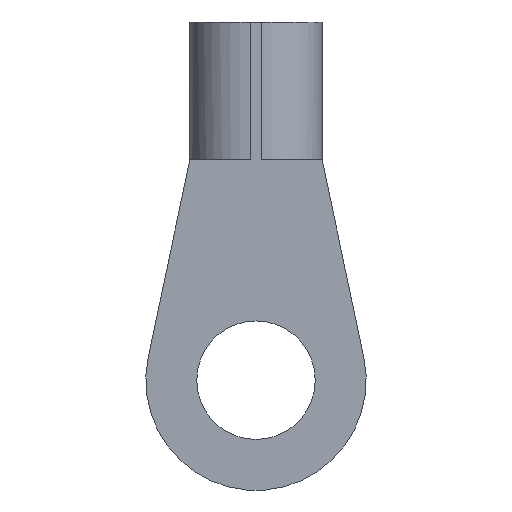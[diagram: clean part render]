
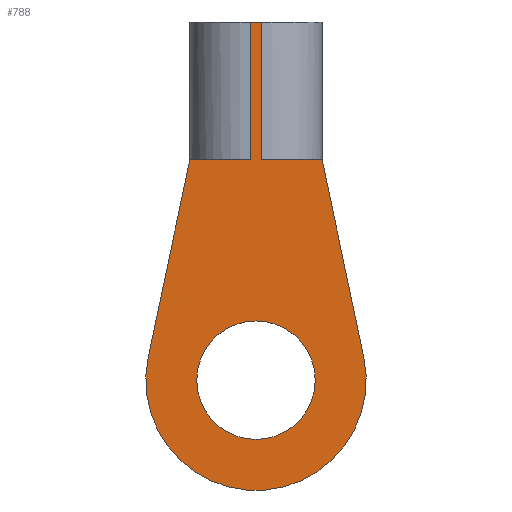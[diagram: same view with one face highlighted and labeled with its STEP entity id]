
A CAD part, front view. The second image highlights one B-rep face of the part: STEP entity #788.
In plain terms, the highlighted planar face has unit normal (0, -1, 0).
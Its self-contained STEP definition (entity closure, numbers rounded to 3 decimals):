
#12 = CARTESIAN_POINT ( 'NONE',  ( 0.2, -1., -5. ) ) ;
#22 = CARTESIAN_POINT ( 'NONE',  ( 0., -1., -10.85 ) ) ;
#24 = VERTEX_POINT ( 'NONE', #632 ) ;
#30 = VERTEX_POINT ( 'NONE', #621 ) ;
#32 = VERTEX_POINT ( 'NONE', #625 ) ;
#36 = VERTEX_POINT ( 'NONE', #627 ) ;
#47 = VERTEX_POINT ( 'NONE', #22 ) ;
#61 = LINE ( 'NONE', #464, #75 ) ;
#72 = CIRCLE ( 'NONE', #564, 4. ) ;
#75 = VECTOR ( 'NONE', #296, 1000. ) ;
#76 = LINE ( 'NONE', #620, #79 ) ;
#78 = LINE ( 'NONE', #295, #83 ) ;
#79 = VECTOR ( 'NONE', #617, 1000. ) ;
#83 = VECTOR ( 'NONE', #433, 1000. ) ;
#88 = LINE ( 'NONE', #448, #92 ) ;
#92 = VECTOR ( 'NONE', #454, 1000. ) ;
#104 = LINE ( 'NONE', #470, #107 ) ;
#107 = VECTOR ( 'NONE', #711, 1000. ) ;
#134 = FACE_OUTER_BOUND ( 'NONE', #534, .T. ) ;
#136 = FACE_BOUND ( 'NONE', #679, .T. ) ;
#182 = CIRCLE ( 'NONE', #399, 2.15 ) ;
#230 = LINE ( 'NONE', #1090, #234 ) ;
#234 = VECTOR ( 'NONE', #1086, 1000. ) ;
#281 = CIRCLE ( 'NONE', #387, 2.15 ) ;
#286 = LINE ( 'NONE', #889, #287 ) ;
#287 = VECTOR ( 'NONE', #890, 1000. ) ;
#295 = CARTESIAN_POINT ( 'NONE',  ( -2.4, -1., -5. ) ) ;
#296 = DIRECTION ( 'NONE',  ( 0., 0., 1. ) ) ;
#387 = AXIS2_PLACEMENT_3D ( 'NONE', #891, #892, #893 ) ;
#399 = AXIS2_PLACEMENT_3D ( 'NONE', #1037, #1038, #1039 ) ;
#426 = AXIS2_PLACEMENT_3D ( 'NONE', #915, #919, #920 ) ;
#433 = DIRECTION ( 'NONE',  ( 1., 0., 0. ) ) ;
#448 = CARTESIAN_POINT ( 'NONE',  ( -3.914, -1., -12.174 ) ) ;
#454 = DIRECTION ( 'NONE',  ( 0.206, 0., 0.978 ) ) ;
#464 = CARTESIAN_POINT ( 'NONE',  ( -0.2, -1., -5. ) ) ;
#470 = CARTESIAN_POINT ( 'NONE',  ( -2.4, -1., -5. ) ) ;
#480 = CARTESIAN_POINT ( 'NONE',  ( -2.4, -1., -5. ) ) ;
#483 = VERTEX_POINT ( 'NONE', #12 ) ;
#487 = VERTEX_POINT ( 'NONE', #656 ) ;
#490 = VERTEX_POINT ( 'NONE', #658 ) ;
#491 = VERTEX_POINT ( 'NONE', #661 ) ;
#499 = VERTEX_POINT ( 'NONE', #480 ) ;
#534 = EDGE_LOOP ( 'NONE', ( #834, #592, #587, #883, #588, #855, #616, #854 ) ) ;
#564 = AXIS2_PLACEMENT_3D ( 'NONE', #836, #835, #738 ) ;
#571 = EDGE_CURVE ( 'NONE', #32, #24, #61, .T. ) ;
#572 = EDGE_CURVE ( 'NONE', #490, #491, #72, .T. ) ;
#574 = EDGE_CURVE ( 'NONE', #487, #490, #76, .T. ) ;
#576 = EDGE_CURVE ( 'NONE', #483, #487, #78, .T. ) ;
#587 = ORIENTED_EDGE ( 'NONE', *, *, #654, .F. ) ;
#588 = ORIENTED_EDGE ( 'NONE', *, *, #572, .F. ) ;
#592 = ORIENTED_EDGE ( 'NONE', *, *, #571, .F. ) ;
#594 = ORIENTED_EDGE ( 'NONE', *, *, #1211, .T. ) ;
#616 = ORIENTED_EDGE ( 'NONE', *, *, #576, .F. ) ;
#617 = DIRECTION ( 'NONE',  ( 0.206, 0., -0.978 ) ) ;
#620 = CARTESIAN_POINT ( 'NONE',  ( 2.4, -1., -5. ) ) ;
#621 = CARTESIAN_POINT ( 'NONE',  ( 0., -1., -15.15 ) ) ;
#625 = CARTESIAN_POINT ( 'NONE',  ( -0.2, -1., -5. ) ) ;
#627 = CARTESIAN_POINT ( 'NONE',  ( 0.2, -1., 0. ) ) ;
#632 = CARTESIAN_POINT ( 'NONE',  ( -0.2, -1., 0. ) ) ;
#645 = EDGE_CURVE ( 'NONE', #491, #499, #88, .T. ) ;
#654 = EDGE_CURVE ( 'NONE', #499, #32, #104, .T. ) ;
#656 = CARTESIAN_POINT ( 'NONE',  ( 2.4, -1., -5. ) ) ;
#658 = CARTESIAN_POINT ( 'NONE',  ( 3.914, -1., -12.174 ) ) ;
#661 = CARTESIAN_POINT ( 'NONE',  ( -3.914, -1., -12.174 ) ) ;
#679 = EDGE_LOOP ( 'NONE', ( #594, #852 ) ) ;
#711 = DIRECTION ( 'NONE',  ( 1., 0., 0. ) ) ;
#738 = DIRECTION ( 'NONE',  ( 0., 0., 1. ) ) ;
#788 = ADVANCED_FACE ( 'NONE', ( #134, #136 ), #917, .T. ) ;
#834 = ORIENTED_EDGE ( 'NONE', *, *, #1182, .F. ) ;
#835 = DIRECTION ( 'NONE',  ( 0., 1., 0. ) ) ;
#836 = CARTESIAN_POINT ( 'NONE',  ( 0., -1., -13. ) ) ;
#852 = ORIENTED_EDGE ( 'NONE', *, *, #1156, .T. ) ;
#854 = ORIENTED_EDGE ( 'NONE', *, *, #1214, .T. ) ;
#855 = ORIENTED_EDGE ( 'NONE', *, *, #574, .F. ) ;
#883 = ORIENTED_EDGE ( 'NONE', *, *, #645, .F. ) ;
#889 = CARTESIAN_POINT ( 'NONE',  ( 0.2, -1., -5. ) ) ;
#890 = DIRECTION ( 'NONE',  ( 0., 0., 1. ) ) ;
#891 = CARTESIAN_POINT ( 'NONE',  ( 0., -1., -13. ) ) ;
#892 = DIRECTION ( 'NONE',  ( 0., 1., 0. ) ) ;
#893 = DIRECTION ( 'NONE',  ( 0., 0., 1. ) ) ;
#915 = CARTESIAN_POINT ( 'NONE',  ( -1.4, -1., -5. ) ) ;
#917 = PLANE ( 'NONE',  #426 ) ;
#919 = DIRECTION ( 'NONE',  ( 0., -1., 0. ) ) ;
#920 = DIRECTION ( 'NONE',  ( 0., 0., -1. ) ) ;
#1037 = CARTESIAN_POINT ( 'NONE',  ( 0., -1., -13. ) ) ;
#1038 = DIRECTION ( 'NONE',  ( 0., 1., 0. ) ) ;
#1039 = DIRECTION ( 'NONE',  ( 0., 0., 1. ) ) ;
#1086 = DIRECTION ( 'NONE',  ( 1., 0., 0. ) ) ;
#1090 = CARTESIAN_POINT ( 'NONE',  ( -1.4, -1., 0. ) ) ;
#1156 = EDGE_CURVE ( 'NONE', #30, #47, #182, .T. ) ;
#1182 = EDGE_CURVE ( 'NONE', #24, #36, #230, .T. ) ;
#1211 = EDGE_CURVE ( 'NONE', #47, #30, #281, .T. ) ;
#1214 = EDGE_CURVE ( 'NONE', #483, #36, #286, .T. ) ;
